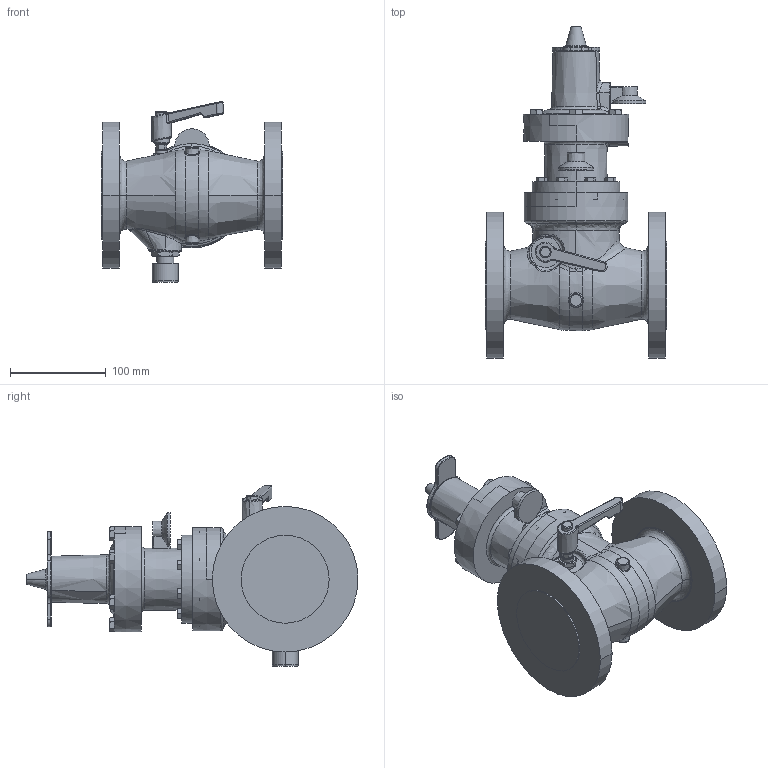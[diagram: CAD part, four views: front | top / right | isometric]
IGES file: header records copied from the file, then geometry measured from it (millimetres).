
Start section:  PTC IGES file: 226054r2_asm_gips_2-1_sw0001.igs
Global section: file name: 226054r2_asm_gips_2-1_sw0001.igs; native system: Pro/ENGINEER by Parametric Technology Corporation; preprocessor: 2010160; author: jjunior; organization: Unknown; date: 20190910.150714; units: millimetre
Bounding box: 190 x 347.2 x 189.14 mm (x, y, z)
Volume: 2699256.2 mm3; surface area: 227078 mm2
Topology: 2 solids, 3 shells, 1059 faces, 2609 edges, 1611 vertices
Faces by surface type: bspline 640, revolution 419
